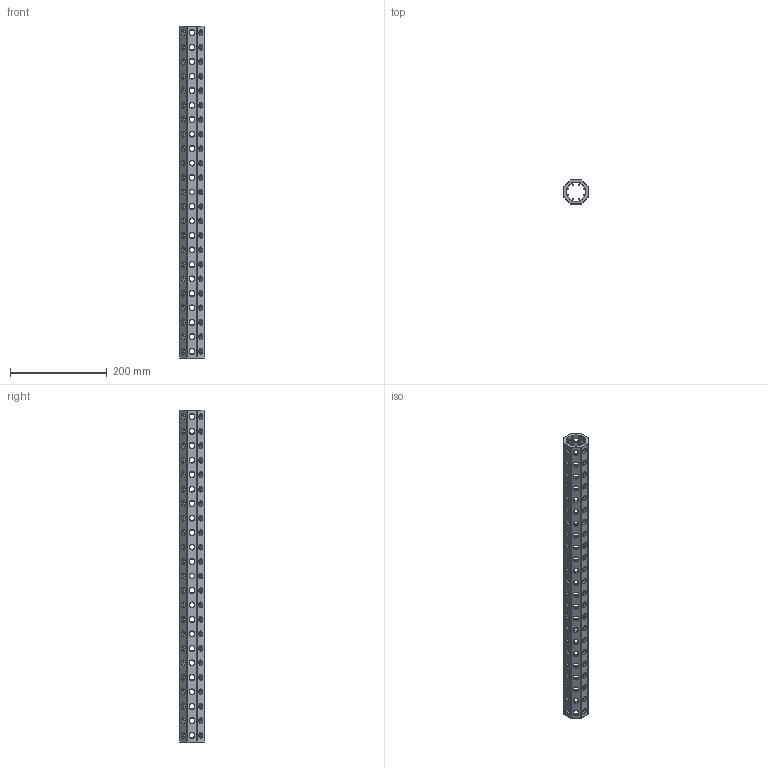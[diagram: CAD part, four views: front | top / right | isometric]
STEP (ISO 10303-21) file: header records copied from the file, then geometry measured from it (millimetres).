
FILE_DESCRIPTION(('CATIA V5 STEP Exchange'),'2;1');
FILE_NAME('U:\Room\唐宝山\EGT002\46-01-010252-01-EGT002-688.stp','2021-08-24T01:05:53+00:00',('none'),('none'),'CATIA Version 5 Release 21 GA (IN-10)','CATIA V5 STEP AP203','none');
FILE_SCHEMA(('CONFIG_CONTROL_DESIGN'));
Products named in the file (1): 46-01-010252-01-EGT002-688
Bounding box: 50 x 50 x 688 mm (x, y, z)
Volume: 490023.1 mm3; surface area: 237429 mm2
Topology: 1 solids, 1 shells, 1004 faces, 2776 edges, 1728 vertices
Faces by surface type: cone 552, cylinder 426, plane 26
Entity records: 42620 total; most frequent: CARTESIAN_POINT 18357, ORIENTED_EDGE 5552, DIRECTION 3861, EDGE_CURVE 2776, AXIS2_PLACEMENT_3D 1762, VERTEX_POINT 1728, EDGE_LOOP 1328, VECTOR 1096
